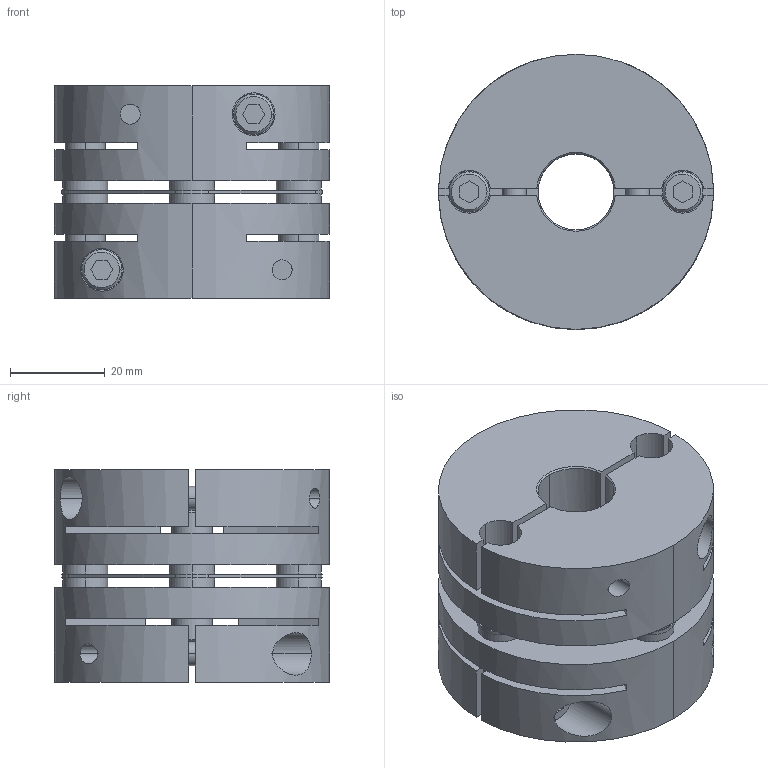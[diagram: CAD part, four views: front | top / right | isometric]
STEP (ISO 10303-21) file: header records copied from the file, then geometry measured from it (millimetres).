
FILE_DESCRIPTION((''),'2;1');
FILE_NAME('LAS-58C-16×22.stp','2015-10-15T14:51:20',(''),(''),'AutoCAD STEP 2000i','AutoCAD 2000i',', , ');
FILE_SCHEMA(('CONFIG_CONTROL_DESIGN'));
Length unit declared in the file: millimetre
Products named in the file (6): LAS-58C-12×19; 忣兜1; LA-5802-D19; LA-5802-D12-1; LA-5802-D12; LAS58-ITA
Assembly tree (5 placements, depth 2):
  LAS-58C-12×19
    忣兜1
    LA-5802-D19
    LA-5802-D12-1
    LA-5802-D12
    LAS58-ITA
Bounding box: 58 x 58 x 44.8 mm (x, y, z)
Volume: 84981.2 mm3; surface area: 33040.9 mm2
Topology: 1 solids, 1 shells, 238 faces, 618 edges, 404 vertices
Faces by surface type: plane 114, cylinder 96, cone 28
Entity records: 8213 total; most frequent: CARTESIAN_POINT 1988, DIRECTION 1316, ORIENTED_EDGE 1240, EDGE_CURVE 620, AXIS2_PLACEMENT_3D 484, VERTEX_POINT 404, VECTOR 348, LINE 348
